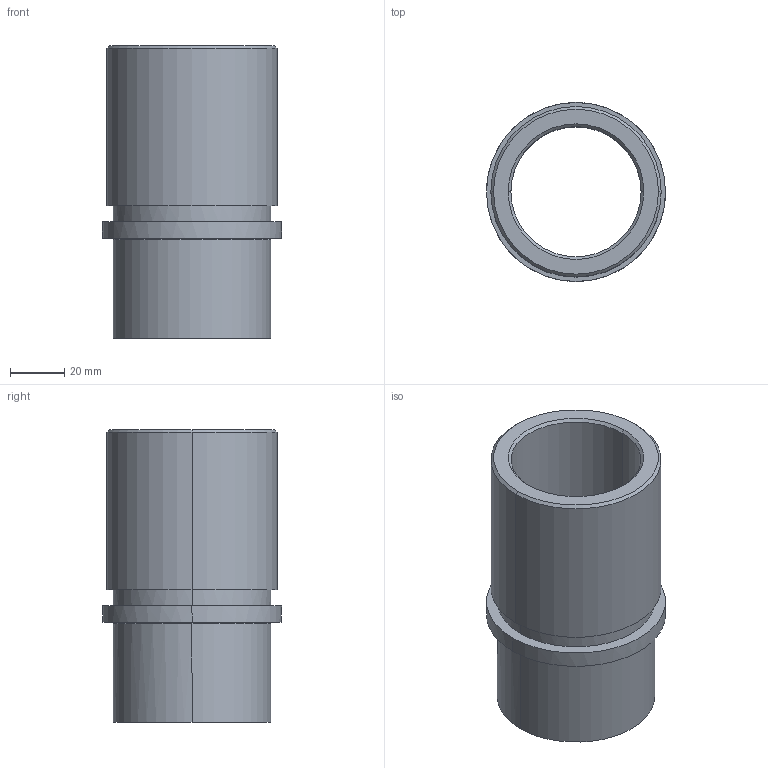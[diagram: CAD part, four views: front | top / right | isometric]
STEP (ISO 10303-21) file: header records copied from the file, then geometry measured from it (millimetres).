
FILE_DESCRIPTION(('CATIA V5 STEP Exchange'),'2;1');
FILE_NAME('C:\Users\Utente\Desktop\IO LAVORO\3D X SITO CF\X SITO\733\733-40.stp','2021-01-11T17:33:28+00:00',('none'),('none'),'CATIA Version 5 Release 20 GA (IN-10)','CATIA V5 STEP AP203','none');
FILE_SCHEMA(('CONFIG_CONTROL_DESIGN'));
Length unit declared in the file: millimetre
Products named in the file (1): 733-40
Assembly tree (1 placements, depth 2):
  733-40
    #58
Bounding box: 66 x 66 x 108 mm (x, y, z)
Volume: 121051.4 mm3; surface area: 41141.7 mm2
Topology: 1 solids, 1 shells, 25 faces, 50 edges, 30 vertices
Faces by surface type: cylinder 10, cone 6, plane 5, torus 4
Entity records: 851 total; most frequent: CARTESIAN_POINT 282, ORIENTED_EDGE 100, DIRECTION 96, AXIS2_PLACEMENT_3D 53, EDGE_CURVE 50, EDGE_LOOP 30, VERTEX_POINT 30, CIRCLE 26
